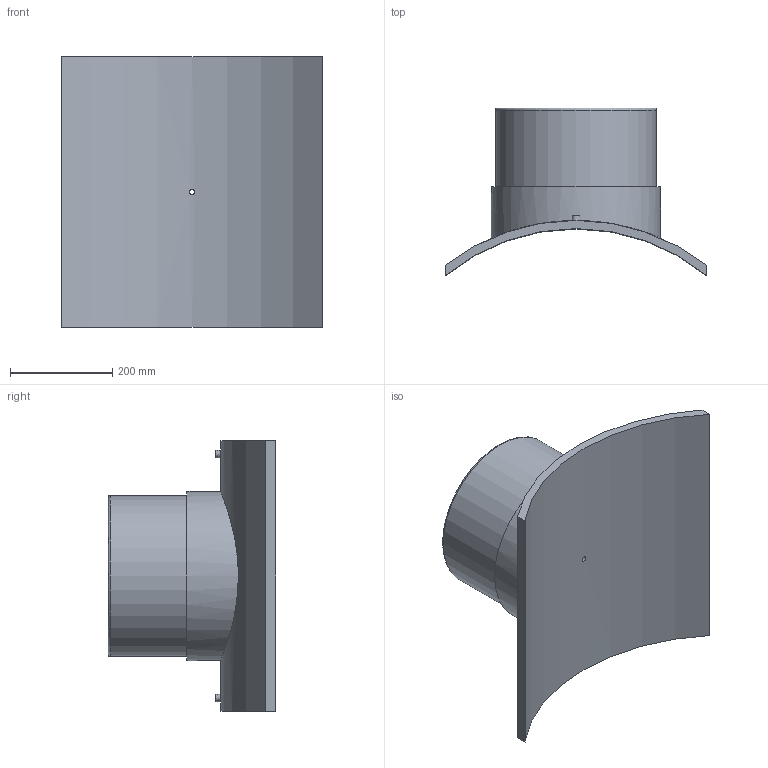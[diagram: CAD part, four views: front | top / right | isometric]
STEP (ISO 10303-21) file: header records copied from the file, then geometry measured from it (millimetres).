
FILE_DESCRIPTION(/* description */ ('PLASSON BRANCH SADDLE 800x315'),/* implementation_level */ '2;1');
FILE_NAME(/* name */ 'C:\Dropbox\KIMPROJECTS-Inventor 2019\99-16-3568-Processing\ElectroFusion Fittings\495803\stp\495803800315T.stp',/* time_stamp */ '2024-04-04T11:57:48+02:00',/* author */ ('KIM'),/* organization */ (''),/* preprocessor_version */ 'ST-DEVELOPER v17.2',/* originating_system */ 'Autodesk Inventor 2019',/* authorisation */ '');
FILE_SCHEMA (('AUTOMOTIVE_DESIGN { 1 0 10303 214 3 1 1 }'));
Length unit declared in the file: millimetre
Products named in the file (1): 495803800315T
Bounding box: 510 x 327.82 x 530 mm (x, y, z)
Volume: 11859584.1 mm3; surface area: 1050760.1 mm2
Topology: 1 solids, 1 shells, 29 faces, 60 edges, 43 vertices
Faces by surface type: plane 13, cylinder 12, torus 2, cone 2
Full cylindrical faces by diameter (mm): 4 x2, 9.6 x1, 10 x2, 16 x1, 252 x1, 315 x1, 330.75 x1
Entity records: 1086 total; most frequent: CARTESIAN_POINT 400, DIRECTION 139, ORIENTED_EDGE 120, EDGE_CURVE 60, AXIS2_PLACEMENT_3D 60, VERTEX_POINT 43, EDGE_LOOP 41, CIRCLE 30
